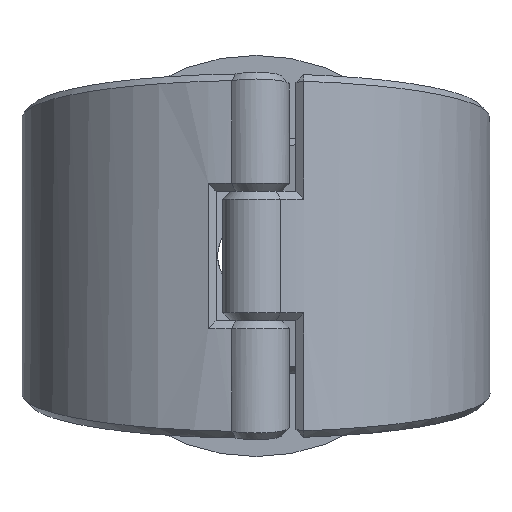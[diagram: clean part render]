
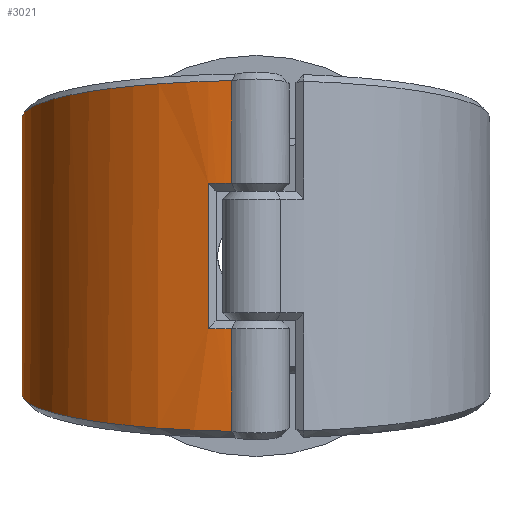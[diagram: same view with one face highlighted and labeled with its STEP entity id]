
A CAD part, front view. The second image highlights one B-rep face of the part: STEP entity #3021.
In plain terms, the highlighted cylindrical face has radius 59.5 mm (diameter 119 mm), a partial arc.
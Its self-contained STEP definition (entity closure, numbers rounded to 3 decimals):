
#212=FACE_OUTER_BOUND('',#416,.T.);
#416=EDGE_LOOP('',(#2055,#2056,#2057,#2058,#2059,#2060,#2061,#2062,#2063,
#2064,#2065,#2066));
#623=CIRCLE('',#3251,59.5);
#626=CIRCLE('',#3256,59.5);
#805=B_SPLINE_CURVE_WITH_KNOTS('',3,(#4524,#4525,#4526,#4527),
 .UNSPECIFIED.,.F.,.F.,(4,4),(-0.002,0.),.UNSPECIFIED.);
#806=B_SPLINE_CURVE_WITH_KNOTS('',3,(#4529,#4530,#4531,#4532),
 .UNSPECIFIED.,.F.,.F.,(4,4),(-3.037,-3.037),
 .UNSPECIFIED.);
#807=B_SPLINE_CURVE_WITH_KNOTS('',3,(#4533,#4534,#4535,#4536,#4537,#4538,
#4539,#4540,#4541,#4542),.UNSPECIFIED.,.F.,.F.,(4,1,1,1,1,1,1,4),(0.316,
0.596,1.005,1.415,1.824,2.233,
2.642,3.037),.UNSPECIFIED.);
#808=B_SPLINE_CURVE_WITH_KNOTS('',3,(#4544,#4545,#4546,#4547,#4548,#4549,
#4550,#4551,#4552,#4553),.UNSPECIFIED.,.F.,.F.,(4,1,1,1,1,1,1,4),(-3.037,
-2.642,-2.233,-1.824,-1.415,
-1.005,-0.596,-0.316),.UNSPECIFIED.);
#809=B_SPLINE_CURVE_WITH_KNOTS('',3,(#4555,#4556,#4557,#4558),
 .UNSPECIFIED.,.F.,.F.,(4,4),(3.037,3.037),
 .UNSPECIFIED.);
#810=B_SPLINE_CURVE_WITH_KNOTS('',3,(#4560,#4561,#4562,#4563),
 .UNSPECIFIED.,.F.,.F.,(4,4),(-0.435,-0.433),
 .UNSPECIFIED.);
#972=LINE('',#4397,#1093);
#979=LINE('',#4458,#1100);
#985=LINE('',#4522,#1106);
#986=LINE('',#4564,#1107);
#1093=VECTOR('',#3575,10.);
#1100=VECTOR('',#3592,10.);
#1106=VECTOR('',#3638,10.);
#1107=VECTOR('',#3639,10.);
#1216=VERTEX_POINT('',#4376);
#1217=VERTEX_POINT('',#4396);
#1229=VERTEX_POINT('',#4452);
#1230=VERTEX_POINT('',#4457);
#1236=VERTEX_POINT('',#4478);
#1239=VERTEX_POINT('',#4499);
#1243=VERTEX_POINT('',#4521);
#1244=VERTEX_POINT('',#4523);
#1245=VERTEX_POINT('',#4528);
#1246=VERTEX_POINT('',#4543);
#1247=VERTEX_POINT('',#4554);
#1248=VERTEX_POINT('',#4559);
#1510=EDGE_CURVE('',#1216,#1217,#972,.T.);
#1524=EDGE_CURVE('',#1229,#1230,#979,.T.);
#1537=EDGE_CURVE('',#1236,#1229,#623,.T.);
#1542=EDGE_CURVE('',#1230,#1239,#626,.T.);
#1548=EDGE_CURVE('',#1243,#1236,#985,.T.);
#1549=EDGE_CURVE('',#1244,#1243,#805,.T.);
#1550=EDGE_CURVE('',#1244,#1245,#806,.T.);
#1551=EDGE_CURVE('',#1217,#1245,#807,.T.);
#1552=EDGE_CURVE('',#1246,#1216,#808,.T.);
#1553=EDGE_CURVE('',#1246,#1247,#809,.T.);
#1554=EDGE_CURVE('',#1248,#1247,#810,.T.);
#1555=EDGE_CURVE('',#1239,#1248,#986,.T.);
#2055=ORIENTED_EDGE('',*,*,#1542,.F.);
#2056=ORIENTED_EDGE('',*,*,#1524,.F.);
#2057=ORIENTED_EDGE('',*,*,#1537,.F.);
#2058=ORIENTED_EDGE('',*,*,#1548,.F.);
#2059=ORIENTED_EDGE('',*,*,#1549,.F.);
#2060=ORIENTED_EDGE('',*,*,#1550,.T.);
#2061=ORIENTED_EDGE('',*,*,#1551,.F.);
#2062=ORIENTED_EDGE('',*,*,#1510,.F.);
#2063=ORIENTED_EDGE('',*,*,#1552,.F.);
#2064=ORIENTED_EDGE('',*,*,#1553,.T.);
#2065=ORIENTED_EDGE('',*,*,#1554,.F.);
#2066=ORIENTED_EDGE('',*,*,#1555,.F.);
#2962=CYLINDRICAL_SURFACE('',#3261,59.5);
#3021=ADVANCED_FACE('',(#212),#2962,.T.);
#3251=AXIS2_PLACEMENT_3D('',#4494,#3614,#3615);
#3256=AXIS2_PLACEMENT_3D('',#4508,#3624,#3625);
#3261=AXIS2_PLACEMENT_3D('',#4520,#3636,#3637);
#3575=DIRECTION('',(0.,0.,1.));
#3592=DIRECTION('',(0.,0.,-1.));
#3614=DIRECTION('center_axis',(0.,0.,-1.));
#3615=DIRECTION('ref_axis',(0.312,-0.95,0.));
#3624=DIRECTION('center_axis',(0.,0.,1.));
#3625=DIRECTION('ref_axis',(0.312,-0.95,0.));
#3636=DIRECTION('center_axis',(0.,0.,1.));
#3637=DIRECTION('ref_axis',(-0.312,0.95,0.));
#3638=DIRECTION('',(0.,0.,-1.));
#3639=DIRECTION('',(0.,0.,-1.));
#4376=CARTESIAN_POINT('',(-18.579,56.525,-26.198));
#4396=CARTESIAN_POINT('',(-18.579,56.525,26.198));
#4397=CARTESIAN_POINT('',(-18.579,56.525,0.));
#4452=CARTESIAN_POINT('',(-12.115,-58.254,18.45));
#4457=CARTESIAN_POINT('',(-12.115,-58.254,-18.45));
#4458=CARTESIAN_POINT('',(-12.115,-58.254,0.));
#4478=CARTESIAN_POINT('',(-6.19,-59.177,18.45));
#4494=CARTESIAN_POINT('Origin',(0.,0.,18.45));
#4499=CARTESIAN_POINT('',(-6.19,-59.177,-18.45));
#4508=CARTESIAN_POINT('Origin',(0.,0.,-18.45));
#4520=CARTESIAN_POINT('Origin',(0.,0.,0.));
#4521=CARTESIAN_POINT('',(-6.19,-59.177,44.557));
#4522=CARTESIAN_POINT('',(-6.19,-59.177,0.));
#4523=CARTESIAN_POINT('',(-6.17,-59.179,44.571));
#4524=CARTESIAN_POINT('Ctrl Pts',(-6.17,-59.179,44.571));
#4525=CARTESIAN_POINT('Ctrl Pts',(-6.177,-59.178,44.566));
#4526=CARTESIAN_POINT('Ctrl Pts',(-6.183,-59.177,44.562));
#4527=CARTESIAN_POINT('Ctrl Pts',(-6.19,-59.177,44.557));
#4528=CARTESIAN_POINT('',(-6.19,-59.177,44.571));
#4529=CARTESIAN_POINT('Ctrl Pts',(-6.17,-59.179,44.571));
#4530=CARTESIAN_POINT('Ctrl Pts',(-6.177,-59.178,44.571));
#4531=CARTESIAN_POINT('Ctrl Pts',(-6.183,-59.178,44.571));
#4532=CARTESIAN_POINT('Ctrl Pts',(-6.19,-59.177,44.571));
#4533=CARTESIAN_POINT('Ctrl Pts',(-18.578,56.522,26.198));
#4534=CARTESIAN_POINT('Ctrl Pts',(-23.883,54.777,26.474));
#4535=CARTESIAN_POINT('Ctrl Pts',(-36.333,48.653,27.441));
#4536=CARTESIAN_POINT('Ctrl Pts',(-51.816,32.553,29.988));
#4537=CARTESIAN_POINT('Ctrl Pts',(-60.498,9.2,33.688));
#4538=CARTESIAN_POINT('Ctrl Pts',(-59.15,-15.622,37.631));
#4539=CARTESIAN_POINT('Ctrl Pts',(-48.086,-37.823,41.164));
#4540=CARTESIAN_POINT('Ctrl Pts',(-29.375,-53.586,43.678));
#4541=CARTESIAN_POINT('Ctrl Pts',(-13.932,-58.366,44.441));
#4542=CARTESIAN_POINT('Ctrl Pts',(-6.19,-59.177,44.571));
#4543=CARTESIAN_POINT('',(-6.19,-59.177,-44.571));
#4544=CARTESIAN_POINT('Ctrl Pts',(-6.19,-59.177,-44.571));
#4545=CARTESIAN_POINT('Ctrl Pts',(-13.932,-58.366,-44.441));
#4546=CARTESIAN_POINT('Ctrl Pts',(-29.375,-53.586,-43.678));
#4547=CARTESIAN_POINT('Ctrl Pts',(-48.086,-37.823,-41.164));
#4548=CARTESIAN_POINT('Ctrl Pts',(-59.151,-15.622,-37.631));
#4549=CARTESIAN_POINT('Ctrl Pts',(-60.497,9.2,-33.688));
#4550=CARTESIAN_POINT('Ctrl Pts',(-51.819,32.555,-29.987));
#4551=CARTESIAN_POINT('Ctrl Pts',(-36.33,48.65,-27.442));
#4552=CARTESIAN_POINT('Ctrl Pts',(-23.882,54.776,-26.474));
#4553=CARTESIAN_POINT('Ctrl Pts',(-18.578,56.522,-26.198));
#4554=CARTESIAN_POINT('',(-6.17,-59.179,-44.571));
#4555=CARTESIAN_POINT('Ctrl Pts',(-6.19,-59.177,-44.571));
#4556=CARTESIAN_POINT('Ctrl Pts',(-6.183,-59.178,-44.571));
#4557=CARTESIAN_POINT('Ctrl Pts',(-6.177,-59.178,-44.571));
#4558=CARTESIAN_POINT('Ctrl Pts',(-6.17,-59.179,-44.571));
#4559=CARTESIAN_POINT('',(-6.19,-59.177,-44.557));
#4560=CARTESIAN_POINT('Ctrl Pts',(-6.19,-59.177,-44.557));
#4561=CARTESIAN_POINT('Ctrl Pts',(-6.183,-59.177,-44.562));
#4562=CARTESIAN_POINT('Ctrl Pts',(-6.176,-59.178,-44.566));
#4563=CARTESIAN_POINT('Ctrl Pts',(-6.17,-59.179,-44.571));
#4564=CARTESIAN_POINT('',(-6.19,-59.177,0.));
